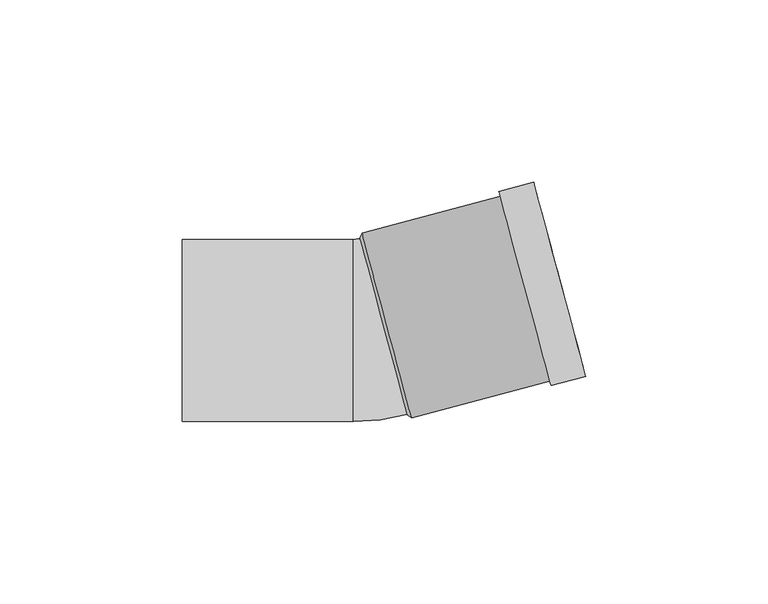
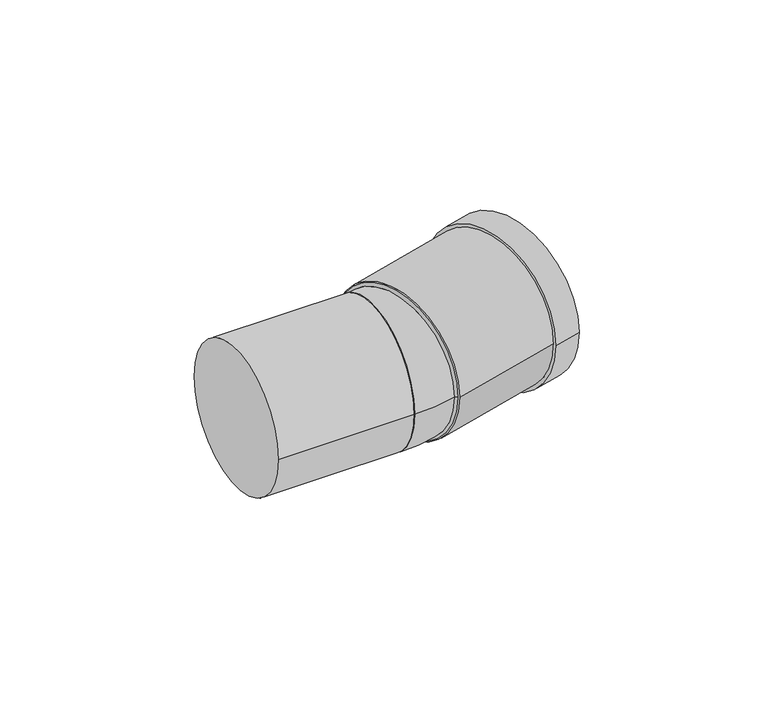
"""IFC4 building model written with IfcOpenShell, lengths in millimetres: pipe fitting geometry, Superdrain HT bend : Superdrain HT Bend."""

from ifc_helpers import new_model, si_unit, point, frame, origin, origin_2d, place, context, project, spatial, polyline, circle_curve, ellipse_curve, trimmed, segment, composite_curve, outline, extrude, source, transform, mapped, element, save
from ifc_brep_helpers import plane_surface, revolved_surface, advanced_brep


def pipe_fitting_e31660b5(model_context):
    return source(origin(), model_context, "Body", "SolidModel", [
        advanced_brep(
        [(10.5273646, -23.0611057, 0.0), (-2.4135877, 25.2351856, 0.0), (-4.2, -25.0, 0.0), (-4.2, 25.0, 0.0)],
        [
            (0, 1, circle_curve(frame((4.0568885, 1.08704, 0.0), z_axis=(0.9659258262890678, 0.25881904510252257, 0.0), x_axis=(-0.25881904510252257, 0.9659258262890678, 0.0)), 25.0)),
            (1, 0, circle_curve(frame((4.0568885, 1.08704, 0.0), z_axis=(0.9659258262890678, 0.25881904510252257, 0.0), x_axis=(-0.25881904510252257, 0.9659258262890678, 0.0)), 25.0)),
            (2, 3, circle_curve(frame((-4.2, 0.0, 0.0), z_axis=(-1.0, 0.0, 0.0), x_axis=(0.0, 1.0, 0.0)), 25.0)),
            (3, 2, circle_curve(frame((-4.2, 0.0, 0.0), z_axis=(-1.0, 0.0, 0.0), x_axis=(0.0, 1.0, 0.0)), 25.0)),
            (3, 1, circle_curve(frame((-4.2, 31.9021673, 0.0), z_axis=(0.0, 0.0, 1.0), x_axis=(1.0, 0.0, 0.0)), 6.9021673)),
            (0, 2, circle_curve(frame((-4.2, 31.9021673, 0.0), z_axis=(0.0, 0.0, -1.0), x_axis=(1.0, 0.0, 0.0)), 56.9021673)),
        ],
        [
            plane_surface(frame((4.0568885, 1.08704, 0.0), z_axis=(0.9659258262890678, 0.2588190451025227, 0.0), x_axis=(0.0, 0.0, -1.0))),
            plane_surface(frame((-4.2, 0.0, 0.0), z_axis=(-1.0, 0.0, 0.0), x_axis=(0.0, 0.0, -1.0))),
            revolved_surface(trimmed(ellipse_curve(frame((27.7021673, 31.9021673, 0.0), z_axis=(0.0, -1.0, 0.0), x_axis=(-1.0, 0.0, 0.0)), 25.0, 25.0), [point((2.7021673, 31.9021673, 0.0))], [point((52.7021673, 31.9021673, 0.0))], True, "CARTESIAN"), (-4.2, 31.9021673, 0.0), (0.0, 0.0, 1.0)),
            revolved_surface(trimmed(ellipse_curve(frame((27.7021673, 31.9021673, 0.0), z_axis=(0.0, -1.0, 0.0), x_axis=(-1.0, 0.0, 0.0)), 25.0, 25.0), [point((52.7021673, 31.9021673, 0.0))], [point((2.7021673, 31.9021673, 0.0))], True, "CARTESIAN"), (-4.2, 31.9021673, 0.0), (0.0, 0.0, 1.0)),
        ],
        [
            (0, [[1, 2]]),
            (1, [[3, 4]]),
            (2, [[-4, 5, -1, 6]]),
            (3, [[-3, -6, -2, -5]]),
        ],
    ),
        extrude(outline(composite_curve([segment(trimmed(circle_curve(origin_2d(), 26.25), [point((0.0, 26.25))], [point((0.0, -26.25))], False, "CARTESIAN"), True, "CONTINUOUS"), segment(trimmed(circle_curve(origin_2d(), 26.25), [point((0.0, -26.25))], [point((0.0, 26.25))], False, "CARTESIAN"), True, "CONTINUOUS")], self_intersect=False), holes=[composite_curve([segment(trimmed(circle_curve(origin_2d(), 25.0), [point((0.0, 24.9999999))], [point((0.0, -25.0))], True, "CARTESIAN"), True, "CONTINUOUS"), segment(trimmed(circle_curve(origin_2d(), 25.0), [point((0.0, -25.0))], [point((0.0, 24.9999999))], True, "CARTESIAN"), True, "CONTINUOUS")], self_intersect=False)]), frame((5.0228143, 1.345859, 0.0), z_axis=(0.9659258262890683, 0.2588190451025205, 0.0), x_axis=(0.0, 0.0, 1.0)), (0.0, 0.0, 1.0), 49.0),
        extrude(outline(composite_curve([segment(trimmed(circle_curve(origin_2d(), 27.5625), [point((0.0, -27.5625))], [point((0.0, 27.5625))], False, "CARTESIAN"), True, "CONTINUOUS"), segment(trimmed(circle_curve(origin_2d(), 27.5625), [point((0.0, 27.5625))], [point((0.0, -27.5625))], False, "CARTESIAN"), True, "CONTINUOUS")], self_intersect=False), holes=[composite_curve([segment(trimmed(circle_curve(origin_2d(), 25.0), [point((0.0, -25.0))], [point((0.0, 25.0))], True, "CARTESIAN"), True, "CONTINUOUS"), segment(trimmed(circle_curve(origin_2d(), 25.0), [point((0.0, 25.0))], [point((0.0, -25.0))], True, "CARTESIAN"), True, "CONTINUOUS")], self_intersect=False)]), frame((42.8871067, 11.4915656, 0.0), z_axis=(0.9659258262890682, 0.25881904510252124, 0.0), x_axis=(0.0, 0.0, 1.0)), (0.0, 0.0, 1.0), 9.8),
        advanced_brep(
        [(11.8168142, -24.0096939, 0.0), (-1.7711856, 26.701412, 0.0), (10.5273646, -23.0611057, 0.0), (-2.4135877, 25.2351856, 0.0)],
        [
            (0, 1, circle_curve(frame((5.0228143, 1.345859, 0.0), z_axis=(0.9659258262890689, 0.2588190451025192, 0.0), x_axis=(0.25881904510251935, -0.9659258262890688, 0.0)), 26.25)),
            (1, 0, circle_curve(frame((5.0228143, 1.345859, 0.0), z_axis=(0.9659258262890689, 0.2588190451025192, 0.0), x_axis=(-0.258819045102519, 0.9659258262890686, 0.0)), 26.25)),
            (2, 3, circle_curve(frame((4.0568885, 1.08704, 0.0), z_axis=(-0.9659258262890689, -0.2588190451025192, 0.0), x_axis=(-0.258819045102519, 0.9659258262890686, 0.0)), 25.0)),
            (3, 2, circle_curve(frame((4.0568885, 1.08704, 0.0), z_axis=(-0.9659258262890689, -0.2588190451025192, 0.0), x_axis=(0.25881904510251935, -0.9659258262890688, 0.0)), 25.0)),
            (3, 1),
            (0, 2),
        ],
        [
            plane_surface(frame((5.0228143, 1.345859, 0.0), z_axis=(0.965925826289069, 0.2588190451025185, 0.0), x_axis=(0.0, 0.0, -1.0))),
            plane_surface(frame((4.0568885, 1.08704, 0.0), z_axis=(-0.965925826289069, -0.2588190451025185, 0.0), x_axis=(0.0, 0.0, -1.0))),
            revolved_surface(polyline([(-2.413587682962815, 25.235185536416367, 0.0), (-1.771185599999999, 26.701412, 0.0)]), (-15.2616281, -4.0893409, 0.0), (0.9659258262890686, 0.25881904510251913, 0.0)),
            revolved_surface(polyline([(10.527364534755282, -23.061105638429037, 0.0), (11.816814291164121, -24.00969396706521, 0.0)]), (-15.2616281, -4.0893409, 0.0), (0.9659258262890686, 0.25881904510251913, 0.0)),
        ],
        [
            (0, [[1, 2]]),
            (1, [[3, 4]]),
            (2, [[-4, 5, -1, 6]]),
            (3, [[-3, -6, -2, -5]]),
        ],
    ),
        extrude(outline(composite_curve([segment(trimmed(circle_curve(origin_2d(), 25.0), [point((-25.0, 0.0))], [point((25.0, 0.0))], False, "CARTESIAN"), True, "CONTINUOUS"), segment(trimmed(circle_curve(origin_2d(), 25.0), [point((25.0, 0.0))], [point((-25.0, 0.0))], False, "CARTESIAN"), True, "CONTINUOUS")], self_intersect=False)), frame((-51.0, 0.0, 0.0), z_axis=(1.0, 0.0, 0.0), x_axis=(0.0, 1.0, 0.0)), (0.0, 0.0, 1.0), 46.8),
    ])


if __name__ == "__main__":
    model = new_model("IFC4")
    model_context = context("Model", 3, world=origin())
    ifc_project = project(units=[si_unit("LENGTHUNIT", "METRE", prefix="MILLI")], contexts=[model_context])
    site = spatial("IfcSite", under=ifc_project)
    building = spatial("IfcBuilding", under=site)
    placement = place(None, origin())
    pipe_fitting_shape = pipe_fitting_e31660b5(model_context)
    element("IfcPipeFitting", 1, ObjectType="Superdrain HT bend : Superdrain HT Bend", at=placement, inside=building, context=model_context, shape_type="MappedRepresentation", body=[
        mapped(pipe_fitting_shape, transform((0.0, 0.0, 0.0), x_axis=(1.0, 0.0, 0.0), y_axis=(0.0, 1.0, 0.0), z_axis=(0.0, 0.0, 1.0))),
    ])
    save(model, "model.ifc")
